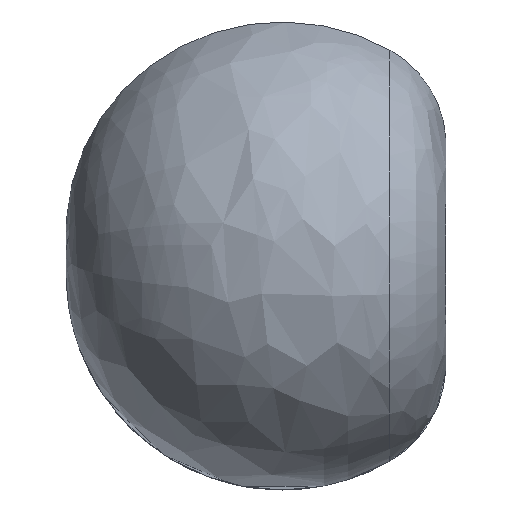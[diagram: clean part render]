
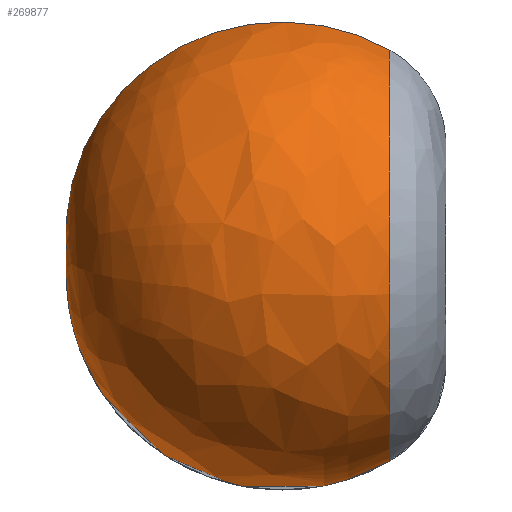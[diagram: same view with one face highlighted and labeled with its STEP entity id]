
A CAD part, left-side view. The second image highlights one B-rep face of the part: STEP entity #269877.
In plain terms, the highlighted free-form (B-spline) face has degree [3, 3] with [7, 4] control points.
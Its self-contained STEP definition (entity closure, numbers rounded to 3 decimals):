
#269727=CARTESIAN_POINT('',(-33.518,537.,145.181));
#269728=DIRECTION('',(-0.974,0.,-0.225));
#269729=DIRECTION('',(-0.195,-0.5,0.844));
#269730=AXIS2_PLACEMENT_3D('',#269727,#269728,#269729);
#269756=CARTESIAN_POINT('',(0.,-222.732,0.));
#269757=DIRECTION('',(0.,-1.,0.));
#269758=DIRECTION('',(-0.225,0.,0.974));
#269759=AXIS2_PLACEMENT_3D('',#269756,#269757,#269758);
#269776=CARTESIAN_POINT('',(33.518,537.,145.181));
#269777=DIRECTION('',(-0.974,0.,0.225));
#269778=DIRECTION('',(0.195,-0.5,0.844));
#269779=AXIS2_PLACEMENT_3D('',#269776,#269777,#269778);
#269801=CARTESIAN_POINT('',(-329.469,-222.732,
1427.087));
#269802=CARTESIAN_POINT('',(0.,2048.907,
0.));
#269803=VERTEX_POINT('',#269801);
#269804=VERTEX_POINT('',#269802);
#269813=CARTESIAN_POINT('',(329.469,-222.732,
1427.087));
#269814=VERTEX_POINT('',#269813);
#269841=CARTESIAN_POINT('',(0.,2048.907,
0.));
#269842=CARTESIAN_POINT('',(-159.707,2191.886,
1441.995));
#269843=CARTESIAN_POINT('',(-243.69,949.609,
2200.278));
#269844=CARTESIAN_POINT('',(-157.422,-279.679,
1421.363));
#269845=CARTESIAN_POINT('',(0.,2048.907,
0.));
#269846=CARTESIAN_POINT('',(-2753.364,2191.886,
1154.736));
#269847=CARTESIAN_POINT('',(-4201.239,949.609,
1761.962));
#269848=CARTESIAN_POINT('',(-2713.969,-279.679,
1138.214));
#269849=CARTESIAN_POINT('',(0.,2048.907,
0.));
#269850=CARTESIAN_POINT('',(-2609.516,2191.886,
-1450.812));
#269851=CARTESIAN_POINT('',(-3981.747,949.609,
-2213.731));
#269852=CARTESIAN_POINT('',(-2572.179,-279.679,
-1430.054));
#269853=CARTESIAN_POINT('',(0.,2048.907,0.));
#269854=CARTESIAN_POINT('',(0.,2191.886,
-1450.812));
#269855=CARTESIAN_POINT('',(0.,949.609,
-2213.731));
#269856=CARTESIAN_POINT('',(0.,-279.679,
-1430.054));
#269857=CARTESIAN_POINT('',(0.,2048.907,
0.));
#269858=CARTESIAN_POINT('',(2609.516,2191.886,
-1450.812));
#269859=CARTESIAN_POINT('',(3981.747,949.609,
-2213.731));
#269860=CARTESIAN_POINT('',(2572.179,-279.679,
-1430.054));
#269861=CARTESIAN_POINT('',(0.,2048.907,
0.));
#269862=CARTESIAN_POINT('',(2753.364,2191.886,
1154.736));
#269863=CARTESIAN_POINT('',(4201.239,949.609,
1761.962));
#269864=CARTESIAN_POINT('',(2713.969,-279.679,
1138.214));
#269865=CARTESIAN_POINT('',(0.,2048.907,
0.));
#269866=CARTESIAN_POINT('',(159.707,2191.886,
1441.995));
#269867=CARTESIAN_POINT('',(243.69,949.609,
2200.278));
#269868=CARTESIAN_POINT('',(157.422,-279.679,
1421.363));
#269869=(BOUNDED_SURFACE()B_SPLINE_SURFACE(3,3,((#269841,#269842,#269843,
#269844),(#269845,#269846,#269847,#269848),(#269849,#269850,#269851,#269852),(
#269853,#269854,#269855,#269856),(#269857,#269858,#269859,#269860),(#269861,
#269862,#269863,#269864),(#269865,#269866,#269867,#269868)),.UNSPECIFIED.,.F.,
.F.,.F.)B_SPLINE_SURFACE_WITH_KNOTS((4,3,4),(4,4),(0.,1.,2.),(0.,1.),
.UNSPECIFIED.)GEOMETRIC_REPRESENTATION_ITEM()RATIONAL_B_SPLINE_SURFACE(((
2.638,1.648,1.648,2.638),(
0.976,0.61,0.61,0.976),(
0.976,0.61,0.61,0.976),(
2.638,1.648,1.648,2.638),(
0.976,0.61,0.61,0.976),(
0.976,0.61,0.61,0.976),(
2.638,1.648,1.648,2.638)))REPRESENTATION_ITEM('')SURFACE());
#269870=ORIENTED_EDGE('',*,*,#269826,.F.);
#269872=ORIENTED_EDGE('',*,*,#269871,.T.);
#269874=ORIENTED_EDGE('',*,*,#269873,.T.);
#269875=EDGE_LOOP('',(#269870,#269872,#269874));
#269876=FACE_OUTER_BOUND('',#269875,.F.);
#269877=ADVANCED_FACE('',(#269876),#269869,.T.);
#269731=CIRCLE('',#269730,1519.231);
#269760=CIRCLE('',#269759,1464.625);
#269780=CIRCLE('',#269779,1519.231);
#269826=EDGE_CURVE('',#269803,#269804,#269731,.T.);
#269871=EDGE_CURVE('',#269803,#269814,#269760,.T.);
#269873=EDGE_CURVE('',#269814,#269804,#269780,.T.);
